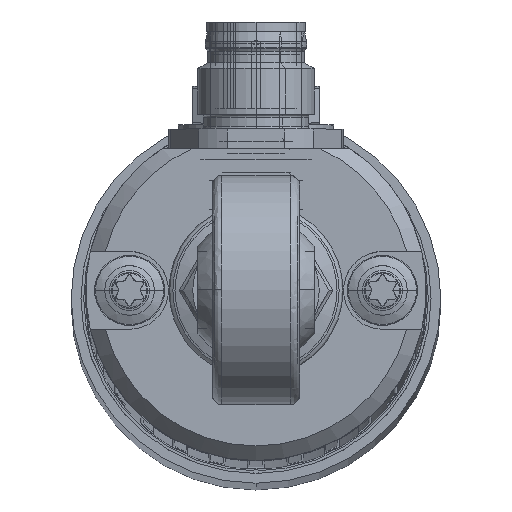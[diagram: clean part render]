
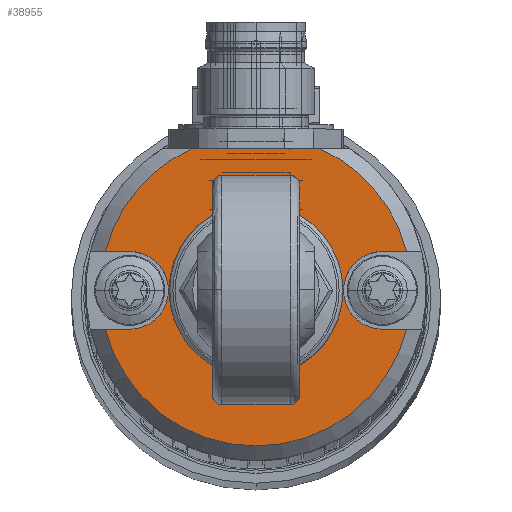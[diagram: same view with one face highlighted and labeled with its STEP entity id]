
A CAD part, top view. The second image highlights one B-rep face of the part: STEP entity #38955.
In plain terms, the highlighted planar face has unit normal (0, 0, 1).
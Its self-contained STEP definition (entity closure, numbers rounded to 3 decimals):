
#8935 = CARTESIAN_POINT ( 'NONE',  ( 0., -4.3, 481.7 ) ) ;
#8936 = DIRECTION ( 'NONE',  ( 0., -1., 0. ) ) ;
#8937 = DIRECTION ( 'NONE',  ( 0., 0., 1. ) ) ;
#8938 = CARTESIAN_POINT ( 'NONE',  ( 0., 0., 481.7 ) ) ;
#8939 = AXIS2_PLACEMENT_3D ( 'NONE', #8938, #8937, #8936 ) ;
#8940 = CIRCLE ( 'NONE', #8939, 4.3 ) ;
#8941 = CARTESIAN_POINT ( 'NONE',  ( 0., 4.3, 481.7 ) ) ;
#9124 = FACE_OUTER_BOUND ( 'NONE', #39059, .T. ) ;
#9125 = FACE_BOUND ( 'NONE', #39054, .T. ) ;
#9165 = DIRECTION ( 'NONE',  ( 0., 1., 0. ) ) ;
#9166 = DIRECTION ( 'NONE',  ( 0., 0., -1. ) ) ;
#9167 = CARTESIAN_POINT ( 'NONE',  ( 0., 0., 481.7 ) ) ;
#9168 = AXIS2_PLACEMENT_3D ( 'NONE', #9167, #9166, #9165 ) ;
#9169 = PLANE ( 'NONE',  #9168 ) ;
#9209 = LINE ( 'NONE', #9266, #9265 ) ;
#9257 = DIRECTION ( 'NONE',  ( 0., -1., 0. ) ) ;
#9258 = DIRECTION ( 'NONE',  ( 0., 0., 1. ) ) ;
#9259 = CARTESIAN_POINT ( 'NONE',  ( 13., 0., 481.7 ) ) ;
#9260 = AXIS2_PLACEMENT_3D ( 'NONE', #9259, #9258, #9257 ) ;
#9261 = CIRCLE ( 'NONE', #9260, 4. ) ;
#9263 = CARTESIAN_POINT ( 'NONE',  ( 13., -4., 481.7 ) ) ;
#9264 = DIRECTION ( 'NONE',  ( 1., 0., 0. ) ) ;
#9265 = VECTOR ( 'NONE', #9264, 1000. ) ;
#9266 = CARTESIAN_POINT ( 'NONE',  ( 13., -4., 481.7 ) ) ;
#9267 = LINE ( 'NONE', #9328, #9327 ) ;
#9268 = CARTESIAN_POINT ( 'NONE',  ( -13., -4., 481.7 ) ) ;
#9269 = DIRECTION ( 'NONE',  ( 0., -1., 0. ) ) ;
#9270 = DIRECTION ( 'NONE',  ( 0., 0., 1. ) ) ;
#9271 = CARTESIAN_POINT ( 'NONE',  ( -13., 0., 481.7 ) ) ;
#9272 = AXIS2_PLACEMENT_3D ( 'NONE', #9271, #9270, #9269 ) ;
#9273 = CIRCLE ( 'NONE', #9272, 4. ) ;
#9274 = CARTESIAN_POINT ( 'NONE',  ( -13., 4., 481.7 ) ) ;
#9275 = DIRECTION ( 'NONE',  ( -1., 0., 0. ) ) ;
#9276 = VECTOR ( 'NONE', #9275, 1000. ) ;
#9277 = CARTESIAN_POINT ( 'NONE',  ( -20., 4., 481.7 ) ) ;
#9278 = LINE ( 'NONE', #9277, #9276 ) ;
#9279 = CARTESIAN_POINT ( 'NONE',  ( -15.492, 4., 481.7 ) ) ;
#9280 = DIRECTION ( 'NONE',  ( 0., 1., 0. ) ) ;
#9281 = DIRECTION ( 'NONE',  ( 0., 0., 1. ) ) ;
#9282 = CARTESIAN_POINT ( 'NONE',  ( 0., 0., 481.7 ) ) ;
#9283 = AXIS2_PLACEMENT_3D ( 'NONE', #9282, #9281, #9280 ) ;
#9284 = CIRCLE ( 'NONE', #9283, 16. ) ;
#9303 = CARTESIAN_POINT ( 'NONE',  ( -6.545, 14.6, 481.7 ) ) ;
#9304 = DIRECTION ( 'NONE',  ( -1., 0., 0. ) ) ;
#9305 = VECTOR ( 'NONE', #9304, 1000. ) ;
#9306 = CARTESIAN_POINT ( 'NONE',  ( 0., 14.6, 481.7 ) ) ;
#9307 = LINE ( 'NONE', #9306, #9305 ) ;
#9308 = CARTESIAN_POINT ( 'NONE',  ( 6.545, 14.6, 481.7 ) ) ;
#9309 = DIRECTION ( 'NONE',  ( 0., 1., 0. ) ) ;
#9310 = DIRECTION ( 'NONE',  ( 0., 0., 1. ) ) ;
#9311 = CARTESIAN_POINT ( 'NONE',  ( 0., 0., 481.7 ) ) ;
#9312 = AXIS2_PLACEMENT_3D ( 'NONE', #9311, #9310, #9309 ) ;
#9313 = CIRCLE ( 'NONE', #9312, 16. ) ;
#9314 = CARTESIAN_POINT ( 'NONE',  ( 15.492, 4., 481.7 ) ) ;
#9315 = CARTESIAN_POINT ( 'NONE',  ( 13., 4., 481.7 ) ) ;
#9316 = DIRECTION ( 'NONE',  ( 1., 0., 0. ) ) ;
#9317 = VECTOR ( 'NONE', #9316, 1000. ) ;
#9318 = CARTESIAN_POINT ( 'NONE',  ( 0., 4., 481.7 ) ) ;
#9319 = LINE ( 'NONE', #9318, #9317 ) ;
#9320 = DIRECTION ( 'NONE',  ( 0., -1., 0. ) ) ;
#9321 = DIRECTION ( 'NONE',  ( 0., 0., 1. ) ) ;
#9322 = CARTESIAN_POINT ( 'NONE',  ( 0., 0., 481.7 ) ) ;
#9323 = AXIS2_PLACEMENT_3D ( 'NONE', #9322, #9321, #9320 ) ;
#9324 = CIRCLE ( 'NONE', #9323, 4.3 ) ;
#9325 = CARTESIAN_POINT ( 'NONE',  ( -15.492, -4., 481.7 ) ) ;
#9326 = DIRECTION ( 'NONE',  ( -1., 0., 0. ) ) ;
#9327 = VECTOR ( 'NONE', #9326, 1000. ) ;
#9328 = CARTESIAN_POINT ( 'NONE',  ( 0., -4., 481.7 ) ) ;
#34399 = CARTESIAN_POINT ( 'NONE',  ( 15.492, -4., 481.7 ) ) ;
#35239 = DIRECTION ( 'NONE',  ( 0., 1., 0. ) ) ;
#35240 = DIRECTION ( 'NONE',  ( 0., 0., 1. ) ) ;
#35241 = CARTESIAN_POINT ( 'NONE',  ( 0., 0., 481.7 ) ) ;
#35242 = AXIS2_PLACEMENT_3D ( 'NONE', #35241, #35240, #35239 ) ;
#35243 = CIRCLE ( 'NONE', #35242, 16. ) ;
#38807 = VERTEX_POINT ( 'NONE', #8941 ) ;
#38809 = EDGE_CURVE ( 'NONE', #38807, #38811, #8940, .T. ) ;
#38811 = VERTEX_POINT ( 'NONE', #8935 ) ;
#38955 = ADVANCED_FACE ( 'NONE', ( #9125, #9124 ), #9169, .F. ) ;
#39005 = ORIENTED_EDGE ( 'NONE', *, *, #39006, .F. ) ;
#39006 = EDGE_CURVE ( 'NONE', #39008, #44683, #9209, .T. ) ;
#39008 = VERTEX_POINT ( 'NONE', #9263 ) ;
#39009 = ORIENTED_EDGE ( 'NONE', *, *, #39011, .F. ) ;
#39011 = EDGE_CURVE ( 'NONE', #39065, #39008, #9261, .T. ) ;
#39034 = ORIENTED_EDGE ( 'NONE', *, *, #39035, .T. ) ;
#39035 = EDGE_CURVE ( 'NONE', #39078, #39038, #9284, .T. ) ;
#39038 = VERTEX_POINT ( 'NONE', #9279 ) ;
#39040 = ORIENTED_EDGE ( 'NONE', *, *, #39042, .F. ) ;
#39042 = EDGE_CURVE ( 'NONE', #39044, #39038, #9278, .T. ) ;
#39044 = VERTEX_POINT ( 'NONE', #9274 ) ;
#39045 = ORIENTED_EDGE ( 'NONE', *, *, #39046, .F. ) ;
#39046 = EDGE_CURVE ( 'NONE', #39047, #39044, #9273, .T. ) ;
#39047 = VERTEX_POINT ( 'NONE', #9268 ) ;
#39048 = ORIENTED_EDGE ( 'NONE', *, *, #39050, .T. ) ;
#39050 = EDGE_CURVE ( 'NONE', #39047, #39051, #9267, .T. ) ;
#39051 = VERTEX_POINT ( 'NONE', #9325 ) ;
#39052 = ORIENTED_EDGE ( 'NONE', *, *, #45116, .T. ) ;
#39054 = EDGE_LOOP ( 'NONE', ( #39055, #39057 ) ) ;
#39055 = ORIENTED_EDGE ( 'NONE', *, *, #39056, .F. ) ;
#39056 = EDGE_CURVE ( 'NONE', #38811, #38807, #9324, .T. ) ;
#39057 = ORIENTED_EDGE ( 'NONE', *, *, #38809, .F. ) ;
#39059 = EDGE_LOOP ( 'NONE', ( #39061, #39067, #39073, #39034, #39040, #39045, #39048, #39052, #39005, #39009 ) ) ;
#39061 = ORIENTED_EDGE ( 'NONE', *, *, #39064, .T. ) ;
#39064 = EDGE_CURVE ( 'NONE', #39065, #39066, #9319, .T. ) ;
#39065 = VERTEX_POINT ( 'NONE', #9315 ) ;
#39066 = VERTEX_POINT ( 'NONE', #9314 ) ;
#39067 = ORIENTED_EDGE ( 'NONE', *, *, #39069, .T. ) ;
#39069 = EDGE_CURVE ( 'NONE', #39066, #39071, #9313, .T. ) ;
#39071 = VERTEX_POINT ( 'NONE', #9308 ) ;
#39073 = ORIENTED_EDGE ( 'NONE', *, *, #39076, .T. ) ;
#39076 = EDGE_CURVE ( 'NONE', #39071, #39078, #9307, .T. ) ;
#39078 = VERTEX_POINT ( 'NONE', #9303 ) ;
#44683 = VERTEX_POINT ( 'NONE', #34399 ) ;
#45116 = EDGE_CURVE ( 'NONE', #39051, #44683, #35243, .T. ) ;
